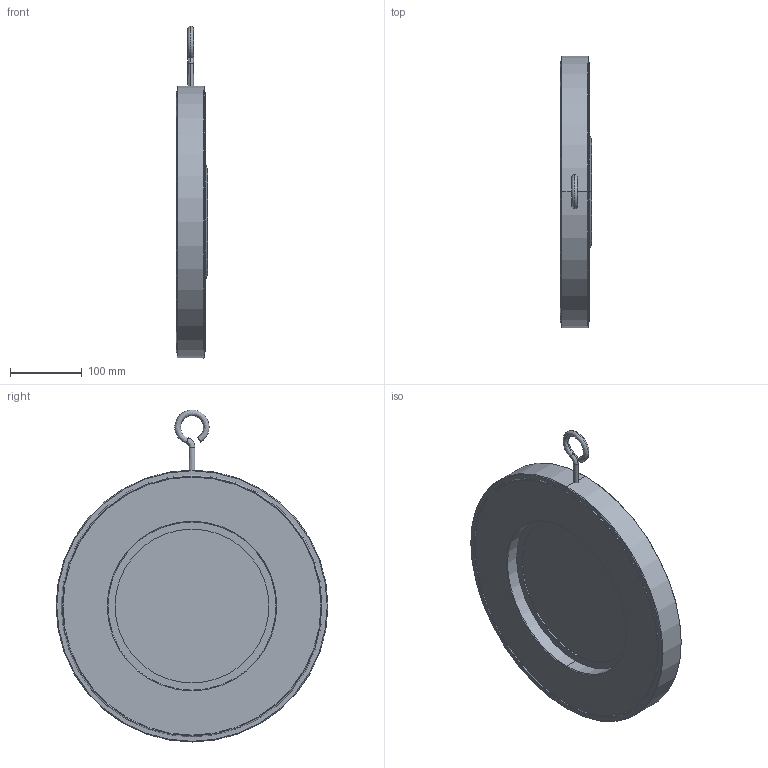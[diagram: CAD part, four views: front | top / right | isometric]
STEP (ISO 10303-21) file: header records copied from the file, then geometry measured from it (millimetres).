
FILE_DESCRIPTION (( 'STEP AP203' ), '1' );
FILE_NAME ('0.STEP', '2017-04-04T01:21:07', ( 'User' ), ( 'shendu' ), 'SwSTEP 2.0', 'SolidWorks 2015', '' );
FILE_SCHEMA (( 'CONFIG_CONTROL_DESIGN' ));
Length unit declared in the file: millimetre
Products named in the file (1): 0
Bounding box: 43.5 x 380 x 464 mm (x, y, z)
Volume: 3131879.9 mm3; surface area: 381848.3 mm2
Topology: 11 solids, 11 shells, 182 faces, 451 edges, 269 vertices
Faces by surface type: plane 71, bspline 41, cylinder 40, cone 30
Entity records: 10827 total; most frequent: CARTESIAN_POINT 6740, ORIENTED_EDGE 848, DIRECTION 805, EDGE_CURVE 424, AXIS2_PLACEMENT_3D 306, VERTEX_POINT 269, EDGE_LOOP 199, VECTOR 193
